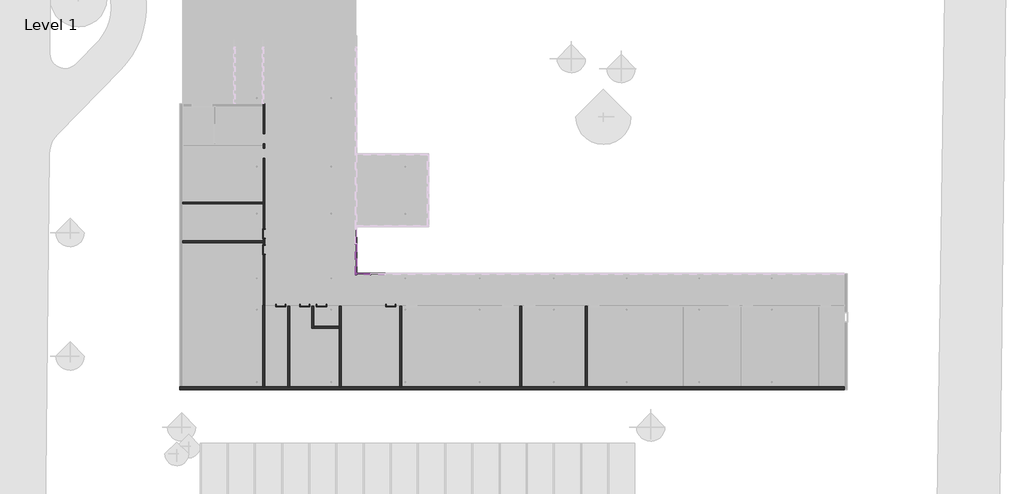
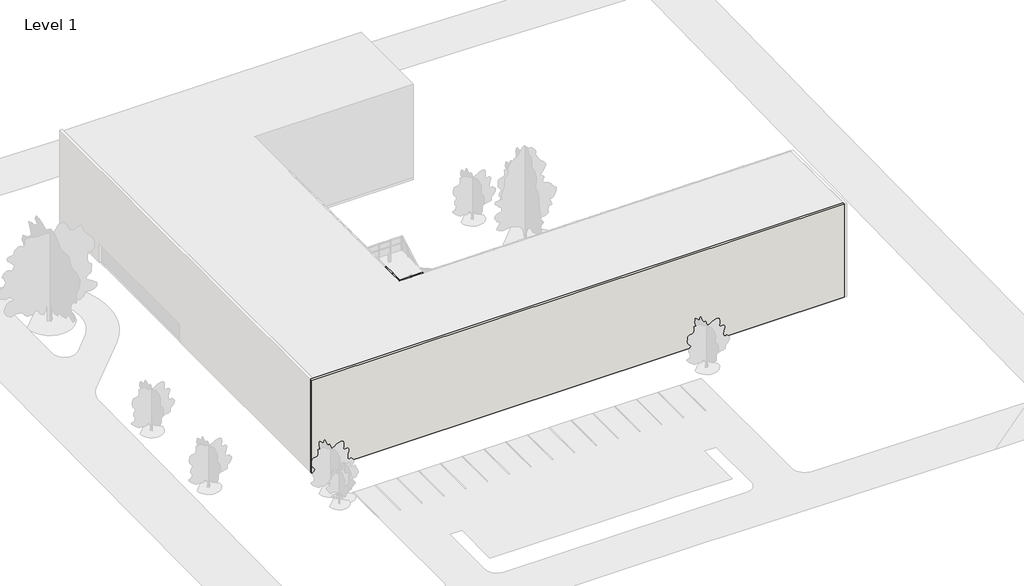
# One storey, part 1 of 18: 60 members, 29 plates, 12 walls, 6 doors.
"""IFC4 building model written with IfcOpenShell, lengths in millimetres."""

from ifc_helpers import new_model, si_unit, origin, origin_with_axes, place, context, project, spatial, polyline, outline, extrude, faceted_brep, transform, mapped, element, save
from components import door_0915mm_x_2134mm_2aa27b83, door_0915mm_x_2134mm_3fa07aa3, quad_corner_mullion_quad_mullion_1_893af7fe, quad_corner_mullion_quad_mullion_1_37ac55ff, quad_corner_mullion_quad_mullion_1_d5379b67, rectangular_mullion_50mm_x_150mm_5f185edf, rectangular_mullion_50mm_x_150mm_e13fe9f0, rectangular_mullion_50mm_x_150mm_70cae3e1, rectangular_mullion_50mm_x_150mm_5226f6e8, rectangular_mullion_50mm_x_150mm_4fd86324, rectangular_mullion_50mm_x_150mm_6edb5cd3, rectangular_mullion_50mm_x_150mm_bba830a1, rectangular_mullion_50mm_x_150mm_9219ffc6, rectangular_mullion_50mm_x_150mm_bbc1c4ea, rectangular_mullion_50mm_x_150mm_36202a7c, rectangular_mullion_50mm_x_150mm_84717ec5, system_panel_glazed_65478968, system_panel_glazed_0eb4fe1c, system_panel_glazed_ff4bdd81, system_panel_glazed_979b1f5c, system_panel_glazed_2d0f29b6, system_panel_glazed_2f061a2c, system_panel_glazed_cb2ac81e, system_panel_solid_83e87f64, system_panel_solid_59448bce, system_panel_solid_281aa57f, system_panel_solid_7338a288, system_panel_solid_71fc82a1, system_panel_solid_0b170172

model = new_model("IFC4")

# Units and contexts
model_context = context("Model", 3, world=origin())
ifc_project = project(units=[si_unit("LENGTHUNIT", "METRE", prefix="MILLI")], contexts=[model_context])

# Site, building, storey
site = spatial("IfcSite", under=ifc_project)
building = spatial("IfcBuilding", under=site)
storey = spatial("IfcBuildingStorey", under=building, Name="Level 1", Elevation=0.0)

# Doors
placement = place(None, origin())
door_0915mm_x_2134mm_shape = door_0915mm_x_2134mm_2aa27b83(model_context)
element("IfcDoor", 1, ObjectType="m-doors-hm-f1-a : 0915mm x 2134mm", at=placement, inside=storey, context=model_context, shape_type="MappedRepresentation", body=[
    mapped(door_0915mm_x_2134mm_shape, transform((-1995.8386635, -8075.8611817, 0.0), x_axis=(0.0, 1.0, 0.0), y_axis=(-1.0, 0.0, 0.0), z_axis=(0.0, 0.0, 1.0))),
])
element("IfcDoor", 2, ObjectType="m-doors-hm-f1-a : 0915mm x 2134mm", at=placement, inside=storey, context=model_context, shape_type="MappedRepresentation", body=[
    mapped(door_0915mm_x_2134mm_shape, transform((-123.8386635, -15479.7006057, 0.0), x_axis=(-1.0, 0.0, 0.0), y_axis=(0.0, -1.0, 0.0), z_axis=(0.0, 0.0, 1.0))),
])
element("IfcDoor", 3, ObjectType="m-doors-hm-f1-a : 0915mm x 2134mm", at=placement, inside=storey, context=model_context, shape_type="MappedRepresentation", body=[
    mapped(door_0915mm_x_2134mm_shape, transform((2284.1613365, -15479.7006057, 0.0), x_axis=(-1.0, 0.0, 0.0), y_axis=(0.0, -1.0, 0.0), z_axis=(0.0, 0.0, 1.0))),
])
element("IfcDoor", 4, ObjectType="m-doors-hm-f1-a : 0915mm x 2134mm", at=placement, inside=storey, context=model_context, shape_type="MappedRepresentation", body=[
    mapped(door_0915mm_x_2134mm_shape, transform((10961.1968037, -15479.7006057, 0.0), x_axis=(-1.0, 0.0, 0.0), y_axis=(0.0, -1.0, 0.0), z_axis=(0.0, 0.0, 1.0))),
])
door_0915mm_x_2134mm_2_shape = door_0915mm_x_2134mm_3fa07aa3(model_context)
element("IfcDoor", 5, ObjectType="m-doors-hm-f1-a : 0915mm x 2134mm", at=placement, inside=storey, context=model_context, shape_type="MappedRepresentation", body=[
    mapped(door_0915mm_x_2134mm_2_shape, transform((-1995.8386635, -9675.8611817, 0.0), x_axis=(0.0, -1.0, 0.0), y_axis=(1.0, 0.0, 0.0), z_axis=(0.0, 0.0, 1.0))),
])
element("IfcDoor", 6, ObjectType="m-doors-hm-f1-a : 0915mm x 2134mm", at=placement, inside=storey, context=model_context, shape_type="MappedRepresentation", body=[
    mapped(door_0915mm_x_2134mm_2_shape, transform((3984.1613365, -15479.7006057, 0.0), x_axis=(1.0, 0.0, 0.0), y_axis=(0.0, 1.0, 0.0), z_axis=(0.0, 0.0, 1.0))),
])

# Members
quad_corner_mullion_quad_mullion_1_shape = quad_corner_mullion_quad_mullion_1_893af7fe(model_context)
element("IfcMember", 7, ObjectType="Quad Corner Mullion : Quad Mullion 1", at=placement, inside=storey, context=model_context, shape_type="MappedRepresentation", body=[
    mapped(quad_corner_mullion_quad_mullion_1_shape, transform((7447.5010724, -12132.3615692, 11400.0), x_axis=(-1.0, 0.0, 0.0), y_axis=(0.0, 1.0, 0.0), z_axis=(0.0, 0.0, -1.0))),
])
quad_corner_mullion_quad_mullion_1_2_shape = quad_corner_mullion_quad_mullion_1_37ac55ff(model_context)
element("IfcMember", 8, ObjectType="Quad Corner Mullion : Quad Mullion 1", at=placement, inside=storey, context=model_context, shape_type="MappedRepresentation", body=[
    mapped(quad_corner_mullion_quad_mullion_1_2_shape, transform((7447.5010724, -12132.3615692, 0.0), x_axis=(-1.0, 0.0, 0.0), y_axis=(0.0, 1.0, 0.0), z_axis=(0.0, 0.0, -1.0))),
])
quad_corner_mullion_quad_mullion_1_3_shape = quad_corner_mullion_quad_mullion_1_d5379b67(model_context)
element("IfcMember", 9, ObjectType="Quad Corner Mullion : Quad Mullion 1", at=placement, inside=storey, context=model_context, shape_type="MappedRepresentation", body=[
    mapped(quad_corner_mullion_quad_mullion_1_3_shape, transform((7447.5010724, -12132.3615692, 2440.0), x_axis=(-1.0, 0.0, 0.0), y_axis=(0.0, 1.0, 0.0), z_axis=(0.0, 0.0, -1.0))),
])
element("IfcMember", 10, ObjectType="Quad Corner Mullion : Quad Mullion 1", at=placement, inside=storey, context=model_context, shape_type="MappedRepresentation", body=[
    mapped(quad_corner_mullion_quad_mullion_1_3_shape, transform((7447.5010724, -12132.3615692, 6240.0), x_axis=(-1.0, 0.0, 0.0), y_axis=(0.0, 1.0, 0.0), z_axis=(0.0, 0.0, -1.0))),
])
element("IfcMember", 11, ObjectType="Quad Corner Mullion : Quad Mullion 1", at=placement, inside=storey, context=model_context, shape_type="MappedRepresentation", body=[
    mapped(quad_corner_mullion_quad_mullion_1_3_shape, transform((7447.5010724, -12132.3615692, 10040.0), x_axis=(-1.0, 0.0, 0.0), y_axis=(0.0, 1.0, 0.0), z_axis=(0.0, 0.0, -1.0))),
])
element("IfcMember", 12, ObjectType="Quad Corner Mullion : Quad Mullion 1", at=placement, inside=storey, context=model_context, shape_type="MappedRepresentation", body=[
    mapped(quad_corner_mullion_quad_mullion_1_2_shape, transform((7447.5010724, -12132.3615692, 3800.0), x_axis=(-1.0, 0.0, 0.0), y_axis=(0.0, 1.0, 0.0), z_axis=(0.0, 0.0, -1.0))),
])
element("IfcMember", 13, ObjectType="Quad Corner Mullion : Quad Mullion 1", at=placement, inside=storey, context=model_context, shape_type="MappedRepresentation", body=[
    mapped(quad_corner_mullion_quad_mullion_1_2_shape, transform((7447.5010724, -12132.3615692, 7600.0), x_axis=(-1.0, 0.0, 0.0), y_axis=(0.0, 1.0, 0.0), z_axis=(0.0, 0.0, -1.0))),
])
rectangular_mullion_50mm_x_150mm_shape = rectangular_mullion_50mm_x_150mm_5f185edf(model_context)
element("IfcMember", 14, ObjectType="Rectangular Mullion : 50mm x 150mm", at=placement, inside=storey, context=model_context, shape_type="MappedRepresentation", body=[
    mapped(rectangular_mullion_50mm_x_150mm_shape, transform((8964.9742928, -12132.3615692, 12400.0), x_axis=(0.0, 0.0, 1.0), y_axis=(0.0, 1.0, 0.0), z_axis=(-1.0, 0.0, 0.0))),
])
rectangular_mullion_50mm_x_150mm_2_shape = rectangular_mullion_50mm_x_150mm_e13fe9f0(model_context)
element("IfcMember", 15, ObjectType="Rectangular Mullion : 50mm x 150mm", at=placement, inside=storey, context=model_context, shape_type="MappedRepresentation", body=[
    mapped(rectangular_mullion_50mm_x_150mm_2_shape, transform((8964.9742928, -12132.3615692, 3800.0), x_axis=(0.0, 0.0, 1.0), y_axis=(0.0, 1.0, 0.0), z_axis=(-1.0, 0.0, 0.0))),
])
element("IfcMember", 16, ObjectType="Rectangular Mullion : 50mm x 150mm", at=placement, inside=storey, context=model_context, shape_type="MappedRepresentation", body=[
    mapped(rectangular_mullion_50mm_x_150mm_2_shape, transform((8964.9742928, -12132.3615692, 7600.0), x_axis=(0.0, 0.0, 1.0), y_axis=(0.0, 1.0, 0.0), z_axis=(-1.0, 0.0, 0.0))),
])
element("IfcMember", 17, ObjectType="Rectangular Mullion : 50mm x 150mm", at=placement, inside=storey, context=model_context, shape_type="MappedRepresentation", body=[
    mapped(rectangular_mullion_50mm_x_150mm_2_shape, transform((8964.9742928, -12132.3615692, 11400.0), x_axis=(0.0, 0.0, 1.0), y_axis=(0.0, 1.0, 0.0), z_axis=(-1.0, 0.0, 0.0))),
])
element("IfcMember", 18, ObjectType="Rectangular Mullion : 50mm x 150mm", at=placement, inside=storey, context=model_context, shape_type="MappedRepresentation", body=[
    mapped(rectangular_mullion_50mm_x_150mm_2_shape, transform((8964.9742928, -12132.3615692, 2440.0), x_axis=(0.0, 0.0, 1.0), y_axis=(0.0, 1.0, 0.0), z_axis=(-1.0, 0.0, 0.0))),
])
element("IfcMember", 19, ObjectType="Rectangular Mullion : 50mm x 150mm", at=placement, inside=storey, context=model_context, shape_type="MappedRepresentation", body=[
    mapped(rectangular_mullion_50mm_x_150mm_2_shape, transform((8964.9742928, -12132.3615692, 6240.0), x_axis=(0.0, 0.0, 1.0), y_axis=(0.0, 1.0, 0.0), z_axis=(-1.0, 0.0, 0.0))),
])
element("IfcMember", 20, ObjectType="Rectangular Mullion : 50mm x 150mm", at=placement, inside=storey, context=model_context, shape_type="MappedRepresentation", body=[
    mapped(rectangular_mullion_50mm_x_150mm_2_shape, transform((8964.9742928, -12132.3615692, 10040.0), x_axis=(0.0, 0.0, 1.0), y_axis=(0.0, 1.0, 0.0), z_axis=(-1.0, 0.0, 0.0))),
])
rectangular_mullion_50mm_x_150mm_3_shape = rectangular_mullion_50mm_x_150mm_70cae3e1(model_context)
element("IfcMember", 21, ObjectType="Rectangular Mullion : 50mm x 150mm", at=placement, inside=storey, context=model_context, shape_type="MappedRepresentation", body=[
    mapped(rectangular_mullion_50mm_x_150mm_3_shape, transform((7447.5010724, -9152.8662571, 12400.0), x_axis=(0.0, 0.0, 1.0), y_axis=(1.0, 0.0, 0.0), z_axis=(0.0, 1.0, 0.0))),
])
element("IfcMember", 22, ObjectType="Rectangular Mullion : 50mm x 150mm", at=placement, inside=storey, context=model_context, shape_type="MappedRepresentation", body=[
    mapped(rectangular_mullion_50mm_x_150mm_3_shape, transform((7447.5010724, -10605.113913, 0.0), x_axis=(0.0, 0.0, -1.0), y_axis=(1.0, 0.0, 0.0), z_axis=(0.0, -1.0, 0.0))),
])
element("IfcMember", 23, ObjectType="Rectangular Mullion : 50mm x 150mm", at=placement, inside=storey, context=model_context, shape_type="MappedRepresentation", body=[
    mapped(rectangular_mullion_50mm_x_150mm_3_shape, transform((7447.5010724, -9102.8662571, 0.0), x_axis=(0.0, 0.0, -1.0), y_axis=(1.0, 0.0, 0.0), z_axis=(0.0, -1.0, 0.0))),
])
rectangular_mullion_50mm_x_150mm_4_shape = rectangular_mullion_50mm_x_150mm_5226f6e8(model_context)
element("IfcMember", 24, ObjectType="Rectangular Mullion : 50mm x 150mm", at=placement, inside=storey, context=model_context, shape_type="MappedRepresentation", body=[
    mapped(rectangular_mullion_50mm_x_150mm_4_shape, transform((7447.5010724, -9152.8662571, 3800.0), x_axis=(0.0, 0.0, 1.0), y_axis=(1.0, 0.0, 0.0), z_axis=(0.0, 1.0, 0.0))),
])
element("IfcMember", 25, ObjectType="Rectangular Mullion : 50mm x 150mm", at=placement, inside=storey, context=model_context, shape_type="MappedRepresentation", body=[
    mapped(rectangular_mullion_50mm_x_150mm_4_shape, transform((7447.5010724, -9152.8662571, 7600.0), x_axis=(0.0, 0.0, 1.0), y_axis=(1.0, 0.0, 0.0), z_axis=(0.0, 1.0, 0.0))),
])
element("IfcMember", 26, ObjectType="Rectangular Mullion : 50mm x 150mm", at=placement, inside=storey, context=model_context, shape_type="MappedRepresentation", body=[
    mapped(rectangular_mullion_50mm_x_150mm_4_shape, transform((7447.5010724, -9152.8662571, 11400.0), x_axis=(0.0, 0.0, 1.0), y_axis=(1.0, 0.0, 0.0), z_axis=(0.0, 1.0, 0.0))),
])
element("IfcMember", 27, ObjectType="Rectangular Mullion : 50mm x 150mm", at=placement, inside=storey, context=model_context, shape_type="MappedRepresentation", body=[
    mapped(rectangular_mullion_50mm_x_150mm_4_shape, transform((7447.5010724, -9152.8662571, 10040.0), x_axis=(0.0, 0.0, 1.0), y_axis=(1.0, 0.0, 0.0), z_axis=(0.0, 1.0, 0.0))),
])
element("IfcMember", 28, ObjectType="Rectangular Mullion : 50mm x 150mm", at=placement, inside=storey, context=model_context, shape_type="MappedRepresentation", body=[
    mapped(rectangular_mullion_50mm_x_150mm_4_shape, transform((7447.5010724, -9152.8662571, 6240.0), x_axis=(0.0, 0.0, 1.0), y_axis=(1.0, 0.0, 0.0), z_axis=(0.0, 1.0, 0.0))),
])
element("IfcMember", 29, ObjectType="Rectangular Mullion : 50mm x 150mm", at=placement, inside=storey, context=model_context, shape_type="MappedRepresentation", body=[
    mapped(rectangular_mullion_50mm_x_150mm_4_shape, transform((7447.5010724, -9152.8662571, 2440.0), x_axis=(0.0, 0.0, 1.0), y_axis=(1.0, 0.0, 0.0), z_axis=(0.0, 1.0, 0.0))),
])
rectangular_mullion_50mm_x_150mm_5_shape = rectangular_mullion_50mm_x_150mm_4fd86324(model_context)
element("IfcMember", 30, ObjectType="Rectangular Mullion : 50mm x 150mm", at=placement, inside=storey, context=model_context, shape_type="MappedRepresentation", body=[
    mapped(rectangular_mullion_50mm_x_150mm_5_shape, transform((7447.5010724, -10655.113913, 12400.0), x_axis=(0.0, 0.0, 1.0), y_axis=(1.0, 0.0, 0.0), z_axis=(0.0, 1.0, 0.0))),
])
element("IfcMember", 31, ObjectType="Rectangular Mullion : 50mm x 150mm", at=placement, inside=storey, context=model_context, shape_type="MappedRepresentation", body=[
    mapped(rectangular_mullion_50mm_x_150mm_5_shape, transform((7447.5010724, -12057.3615692, 0.0), x_axis=(0.0, 0.0, -1.0), y_axis=(1.0, 0.0, 0.0), z_axis=(0.0, -1.0, 0.0))),
])
rectangular_mullion_50mm_x_150mm_6_shape = rectangular_mullion_50mm_x_150mm_6edb5cd3(model_context)
element("IfcMember", 32, ObjectType="Rectangular Mullion : 50mm x 150mm", at=placement, inside=storey, context=model_context, shape_type="MappedRepresentation", body=[
    mapped(rectangular_mullion_50mm_x_150mm_6_shape, transform((7447.5010724, -10655.113913, 3800.0), x_axis=(0.0, 0.0, 1.0), y_axis=(1.0, 0.0, 0.0), z_axis=(0.0, 1.0, 0.0))),
])
element("IfcMember", 33, ObjectType="Rectangular Mullion : 50mm x 150mm", at=placement, inside=storey, context=model_context, shape_type="MappedRepresentation", body=[
    mapped(rectangular_mullion_50mm_x_150mm_6_shape, transform((7447.5010724, -10655.113913, 7600.0), x_axis=(0.0, 0.0, 1.0), y_axis=(1.0, 0.0, 0.0), z_axis=(0.0, 1.0, 0.0))),
])
element("IfcMember", 34, ObjectType="Rectangular Mullion : 50mm x 150mm", at=placement, inside=storey, context=model_context, shape_type="MappedRepresentation", body=[
    mapped(rectangular_mullion_50mm_x_150mm_6_shape, transform((7447.5010724, -10655.113913, 11400.0), x_axis=(0.0, 0.0, 1.0), y_axis=(1.0, 0.0, 0.0), z_axis=(0.0, 1.0, 0.0))),
])
element("IfcMember", 35, ObjectType="Rectangular Mullion : 50mm x 150mm", at=placement, inside=storey, context=model_context, shape_type="MappedRepresentation", body=[
    mapped(rectangular_mullion_50mm_x_150mm_6_shape, transform((7447.5010724, -10655.113913, 10040.0), x_axis=(0.0, 0.0, 1.0), y_axis=(1.0, 0.0, 0.0), z_axis=(0.0, 1.0, 0.0))),
])
element("IfcMember", 36, ObjectType="Rectangular Mullion : 50mm x 150mm", at=placement, inside=storey, context=model_context, shape_type="MappedRepresentation", body=[
    mapped(rectangular_mullion_50mm_x_150mm_6_shape, transform((7447.5010724, -10655.113913, 6240.0), x_axis=(0.0, 0.0, 1.0), y_axis=(1.0, 0.0, 0.0), z_axis=(0.0, 1.0, 0.0))),
])
element("IfcMember", 37, ObjectType="Rectangular Mullion : 50mm x 150mm", at=placement, inside=storey, context=model_context, shape_type="MappedRepresentation", body=[
    mapped(rectangular_mullion_50mm_x_150mm_6_shape, transform((7447.5010724, -10655.113913, 2440.0), x_axis=(0.0, 0.0, 1.0), y_axis=(1.0, 0.0, 0.0), z_axis=(0.0, 1.0, 0.0))),
])
rectangular_mullion_50mm_x_150mm_7_shape = rectangular_mullion_50mm_x_150mm_bba830a1(model_context)
element("IfcMember", 38, ObjectType="Rectangular Mullion : 50mm x 150mm", at=placement, inside=storey, context=model_context, shape_type="MappedRepresentation", body=[
    mapped(rectangular_mullion_50mm_x_150mm_7_shape, transform((7522.5010724, -12132.3615692, 12400.0), x_axis=(0.0, 0.0, 1.0), y_axis=(0.0, 1.0, 0.0), z_axis=(-1.0, 0.0, 0.0))),
])
element("IfcMember", 39, ObjectType="Rectangular Mullion : 50mm x 150mm", at=placement, inside=storey, context=model_context, shape_type="MappedRepresentation", body=[
    mapped(rectangular_mullion_50mm_x_150mm_7_shape, transform((8914.9742928, -12132.3615692, 0.0), x_axis=(0.0, 0.0, -1.0), y_axis=(0.0, 1.0, 0.0), z_axis=(1.0, 0.0, 0.0))),
])
rectangular_mullion_50mm_x_150mm_8_shape = rectangular_mullion_50mm_x_150mm_9219ffc6(model_context)
element("IfcMember", 40, ObjectType="Rectangular Mullion : 50mm x 150mm", at=placement, inside=storey, context=model_context, shape_type="MappedRepresentation", body=[
    mapped(rectangular_mullion_50mm_x_150mm_8_shape, transform((7522.5010724, -12132.3615692, 3800.0), x_axis=(0.0, 0.0, 1.0), y_axis=(0.0, 1.0, 0.0), z_axis=(-1.0, 0.0, 0.0))),
])
element("IfcMember", 41, ObjectType="Rectangular Mullion : 50mm x 150mm", at=placement, inside=storey, context=model_context, shape_type="MappedRepresentation", body=[
    mapped(rectangular_mullion_50mm_x_150mm_8_shape, transform((7522.5010724, -12132.3615692, 7600.0), x_axis=(0.0, 0.0, 1.0), y_axis=(0.0, 1.0, 0.0), z_axis=(-1.0, 0.0, 0.0))),
])
element("IfcMember", 42, ObjectType="Rectangular Mullion : 50mm x 150mm", at=placement, inside=storey, context=model_context, shape_type="MappedRepresentation", body=[
    mapped(rectangular_mullion_50mm_x_150mm_8_shape, transform((7522.5010724, -12132.3615692, 11400.0), x_axis=(0.0, 0.0, 1.0), y_axis=(0.0, 1.0, 0.0), z_axis=(-1.0, 0.0, 0.0))),
])
element("IfcMember", 43, ObjectType="Rectangular Mullion : 50mm x 150mm", at=placement, inside=storey, context=model_context, shape_type="MappedRepresentation", body=[
    mapped(rectangular_mullion_50mm_x_150mm_8_shape, transform((7522.5010724, -12132.3615692, 2440.0), x_axis=(0.0, 0.0, 1.0), y_axis=(0.0, 1.0, 0.0), z_axis=(-1.0, 0.0, 0.0))),
])
element("IfcMember", 44, ObjectType="Rectangular Mullion : 50mm x 150mm", at=placement, inside=storey, context=model_context, shape_type="MappedRepresentation", body=[
    mapped(rectangular_mullion_50mm_x_150mm_8_shape, transform((7522.5010724, -12132.3615692, 6240.0), x_axis=(0.0, 0.0, 1.0), y_axis=(0.0, 1.0, 0.0), z_axis=(-1.0, 0.0, 0.0))),
])
element("IfcMember", 45, ObjectType="Rectangular Mullion : 50mm x 150mm", at=placement, inside=storey, context=model_context, shape_type="MappedRepresentation", body=[
    mapped(rectangular_mullion_50mm_x_150mm_8_shape, transform((7522.5010724, -12132.3615692, 10040.0), x_axis=(0.0, 0.0, 1.0), y_axis=(0.0, 1.0, 0.0), z_axis=(-1.0, 0.0, 0.0))),
])
rectangular_mullion_50mm_x_150mm_9_shape = rectangular_mullion_50mm_x_150mm_bbc1c4ea(model_context)
element("IfcMember", 46, ObjectType="Rectangular Mullion : 50mm x 150mm", at=placement, inside=storey, context=model_context, shape_type="MappedRepresentation", body=[
    mapped(rectangular_mullion_50mm_x_150mm_9_shape, transform((8939.9742928, -12132.3615692, 11400.0), x_axis=(-1.0, 0.0, 0.0), y_axis=(0.0, 1.0, 0.0), z_axis=(0.0, 0.0, -1.0))),
])
element("IfcMember", 47, ObjectType="Rectangular Mullion : 50mm x 150mm", at=placement, inside=storey, context=model_context, shape_type="MappedRepresentation", body=[
    mapped(rectangular_mullion_50mm_x_150mm_9_shape, transform((7447.5010724, -10630.113913, 11400.0), x_axis=(0.0, 1.0, 0.0), y_axis=(1.0, 0.0, 0.0), z_axis=(0.0, 0.0, -1.0))),
])
element("IfcMember", 48, ObjectType="Rectangular Mullion : 50mm x 150mm", at=placement, inside=storey, context=model_context, shape_type="MappedRepresentation", body=[
    mapped(rectangular_mullion_50mm_x_150mm_9_shape, transform((7447.5010724, -9127.8662571, 11400.0), x_axis=(0.0, 1.0, 0.0), y_axis=(1.0, 0.0, 0.0), z_axis=(0.0, 0.0, -1.0))),
])
rectangular_mullion_50mm_x_150mm_10_shape = rectangular_mullion_50mm_x_150mm_36202a7c(model_context)
element("IfcMember", 49, ObjectType="Rectangular Mullion : 50mm x 150mm", at=placement, inside=storey, context=model_context, shape_type="MappedRepresentation", body=[
    mapped(rectangular_mullion_50mm_x_150mm_10_shape, transform((8939.9742928, -12132.3615692, 0.0), x_axis=(-1.0, 0.0, 0.0), y_axis=(0.0, 1.0, 0.0), z_axis=(0.0, 0.0, -1.0))),
])
element("IfcMember", 50, ObjectType="Rectangular Mullion : 50mm x 150mm", at=placement, inside=storey, context=model_context, shape_type="MappedRepresentation", body=[
    mapped(rectangular_mullion_50mm_x_150mm_10_shape, transform((7447.5010724, -10630.113913, 0.0), x_axis=(0.0, 1.0, 0.0), y_axis=(1.0, 0.0, 0.0), z_axis=(0.0, 0.0, -1.0))),
])
element("IfcMember", 51, ObjectType="Rectangular Mullion : 50mm x 150mm", at=placement, inside=storey, context=model_context, shape_type="MappedRepresentation", body=[
    mapped(rectangular_mullion_50mm_x_150mm_10_shape, transform((7447.5010724, -9127.8662571, 0.0), x_axis=(0.0, 1.0, 0.0), y_axis=(1.0, 0.0, 0.0), z_axis=(0.0, 0.0, -1.0))),
])
rectangular_mullion_50mm_x_150mm_11_shape = rectangular_mullion_50mm_x_150mm_84717ec5(model_context)
element("IfcMember", 52, ObjectType="Rectangular Mullion : 50mm x 150mm", at=placement, inside=storey, context=model_context, shape_type="MappedRepresentation", body=[
    mapped(rectangular_mullion_50mm_x_150mm_11_shape, transform((8939.9742928, -12132.3615692, 2440.0), x_axis=(-1.0, 0.0, 0.0), y_axis=(0.0, 1.0, 0.0), z_axis=(0.0, 0.0, -1.0))),
])
element("IfcMember", 53, ObjectType="Rectangular Mullion : 50mm x 150mm", at=placement, inside=storey, context=model_context, shape_type="MappedRepresentation", body=[
    mapped(rectangular_mullion_50mm_x_150mm_11_shape, transform((8939.9742928, -12132.3615692, 6240.0), x_axis=(-1.0, 0.0, 0.0), y_axis=(0.0, 1.0, 0.0), z_axis=(0.0, 0.0, -1.0))),
])
element("IfcMember", 54, ObjectType="Rectangular Mullion : 50mm x 150mm", at=placement, inside=storey, context=model_context, shape_type="MappedRepresentation", body=[
    mapped(rectangular_mullion_50mm_x_150mm_11_shape, transform((8939.9742928, -12132.3615692, 10040.0), x_axis=(-1.0, 0.0, 0.0), y_axis=(0.0, 1.0, 0.0), z_axis=(0.0, 0.0, -1.0))),
])
element("IfcMember", 55, ObjectType="Rectangular Mullion : 50mm x 150mm", at=placement, inside=storey, context=model_context, shape_type="MappedRepresentation", body=[
    mapped(rectangular_mullion_50mm_x_150mm_11_shape, transform((7447.5010724, -10630.113913, 10040.0), x_axis=(0.0, 1.0, 0.0), y_axis=(1.0, 0.0, 0.0), z_axis=(0.0, 0.0, -1.0))),
])
element("IfcMember", 56, ObjectType="Rectangular Mullion : 50mm x 150mm", at=placement, inside=storey, context=model_context, shape_type="MappedRepresentation", body=[
    mapped(rectangular_mullion_50mm_x_150mm_11_shape, transform((7447.5010724, -9127.8662571, 10040.0), x_axis=(0.0, 1.0, 0.0), y_axis=(1.0, 0.0, 0.0), z_axis=(0.0, 0.0, -1.0))),
])
element("IfcMember", 57, ObjectType="Rectangular Mullion : 50mm x 150mm", at=placement, inside=storey, context=model_context, shape_type="MappedRepresentation", body=[
    mapped(rectangular_mullion_50mm_x_150mm_11_shape, transform((7447.5010724, -10630.113913, 6240.0), x_axis=(0.0, 1.0, 0.0), y_axis=(1.0, 0.0, 0.0), z_axis=(0.0, 0.0, -1.0))),
])
element("IfcMember", 58, ObjectType="Rectangular Mullion : 50mm x 150mm", at=placement, inside=storey, context=model_context, shape_type="MappedRepresentation", body=[
    mapped(rectangular_mullion_50mm_x_150mm_11_shape, transform((7447.5010724, -9127.8662571, 6240.0), x_axis=(0.0, 1.0, 0.0), y_axis=(1.0, 0.0, 0.0), z_axis=(0.0, 0.0, -1.0))),
])
element("IfcMember", 59, ObjectType="Rectangular Mullion : 50mm x 150mm", at=placement, inside=storey, context=model_context, shape_type="MappedRepresentation", body=[
    mapped(rectangular_mullion_50mm_x_150mm_11_shape, transform((7447.5010724, -10630.113913, 2440.0), x_axis=(0.0, 1.0, 0.0), y_axis=(1.0, 0.0, 0.0), z_axis=(0.0, 0.0, -1.0))),
])
element("IfcMember", 60, ObjectType="Rectangular Mullion : 50mm x 150mm", at=placement, inside=storey, context=model_context, shape_type="MappedRepresentation", body=[
    mapped(rectangular_mullion_50mm_x_150mm_11_shape, transform((7447.5010724, -9127.8662571, 2440.0), x_axis=(0.0, 1.0, 0.0), y_axis=(1.0, 0.0, 0.0), z_axis=(0.0, 0.0, -1.0))),
])
element("IfcMember", 61, ObjectType="Rectangular Mullion : 50mm x 150mm", at=placement, inside=storey, context=model_context, shape_type="MappedRepresentation", body=[
    mapped(rectangular_mullion_50mm_x_150mm_10_shape, transform((8939.9742928, -12132.3615692, 3800.0), x_axis=(-1.0, 0.0, 0.0), y_axis=(0.0, 1.0, 0.0), z_axis=(0.0, 0.0, -1.0))),
])
element("IfcMember", 62, ObjectType="Rectangular Mullion : 50mm x 150mm", at=placement, inside=storey, context=model_context, shape_type="MappedRepresentation", body=[
    mapped(rectangular_mullion_50mm_x_150mm_10_shape, transform((8939.9742928, -12132.3615692, 7600.0), x_axis=(-1.0, 0.0, 0.0), y_axis=(0.0, 1.0, 0.0), z_axis=(0.0, 0.0, -1.0))),
])
element("IfcMember", 63, ObjectType="Rectangular Mullion : 50mm x 150mm", at=placement, inside=storey, context=model_context, shape_type="MappedRepresentation", body=[
    mapped(rectangular_mullion_50mm_x_150mm_10_shape, transform((7447.5010724, -10630.113913, 3800.0), x_axis=(0.0, 1.0, 0.0), y_axis=(1.0, 0.0, 0.0), z_axis=(0.0, 0.0, -1.0))),
])
element("IfcMember", 64, ObjectType="Rectangular Mullion : 50mm x 150mm", at=placement, inside=storey, context=model_context, shape_type="MappedRepresentation", body=[
    mapped(rectangular_mullion_50mm_x_150mm_10_shape, transform((7447.5010724, -9127.8662571, 3800.0), x_axis=(0.0, 1.0, 0.0), y_axis=(1.0, 0.0, 0.0), z_axis=(0.0, 0.0, -1.0))),
])
element("IfcMember", 65, ObjectType="Rectangular Mullion : 50mm x 150mm", at=placement, inside=storey, context=model_context, shape_type="MappedRepresentation", body=[
    mapped(rectangular_mullion_50mm_x_150mm_10_shape, transform((7447.5010724, -10630.113913, 7600.0), x_axis=(0.0, 1.0, 0.0), y_axis=(1.0, 0.0, 0.0), z_axis=(0.0, 0.0, -1.0))),
])
element("IfcMember", 66, ObjectType="Rectangular Mullion : 50mm x 150mm", at=placement, inside=storey, context=model_context, shape_type="MappedRepresentation", body=[
    mapped(rectangular_mullion_50mm_x_150mm_10_shape, transform((7447.5010724, -9127.8662571, 7600.0), x_axis=(0.0, 1.0, 0.0), y_axis=(1.0, 0.0, 0.0), z_axis=(0.0, 0.0, -1.0))),
])

# Plates
system_panel_glazed_shape = system_panel_glazed_65478968(model_context)
element("IfcPlate", 67, ObjectType="System Panel : Glazed", at=placement, inside=storey, context=model_context, shape_type="MappedRepresentation", body=[
    mapped(system_panel_glazed_shape, transform((9686.2109029, -12132.3615692, 50.0), x_axis=(-1.0, 0.0, 0.0), y_axis=(0.0, -1.0, 0.0), z_axis=(0.0, 0.0, 1.0))),
])
system_panel_glazed_2_shape = system_panel_glazed_0eb4fe1c(model_context)
element("IfcPlate", 68, ObjectType="System Panel : Glazed", at=placement, inside=storey, context=model_context, shape_type="MappedRepresentation", body=[
    mapped(system_panel_glazed_2_shape, transform((8218.7376826, -12132.3615692, 50.0), x_axis=(-1.0, 0.0, 0.0), y_axis=(0.0, -1.0, 0.0), z_axis=(0.0, 0.0, 1.0))),
])
system_panel_glazed_3_shape = system_panel_glazed_ff4bdd81(model_context)
element("IfcPlate", 69, ObjectType="System Panel : Glazed", at=placement, inside=storey, context=model_context, shape_type="MappedRepresentation", body=[
    mapped(system_panel_glazed_3_shape, transform((8218.7376826, -12132.3615692, 3825.0), x_axis=(-1.0, 0.0, 0.0), y_axis=(0.0, -1.0, 0.0), z_axis=(0.0, 0.0, 1.0))),
])
element("IfcPlate", 70, ObjectType="System Panel : Glazed", at=placement, inside=storey, context=model_context, shape_type="MappedRepresentation", body=[
    mapped(system_panel_glazed_3_shape, transform((8218.7376826, -12132.3615692, 7625.0), x_axis=(-1.0, 0.0, 0.0), y_axis=(0.0, -1.0, 0.0), z_axis=(0.0, 0.0, 1.0))),
])
system_panel_glazed_4_shape = system_panel_glazed_979b1f5c(model_context)
element("IfcPlate", 71, ObjectType="System Panel : Glazed", at=placement, inside=storey, context=model_context, shape_type="MappedRepresentation", body=[
    mapped(system_panel_glazed_4_shape, transform((7447.5010724, -9878.990085, 3825.0), x_axis=(0.0, 1.0, 0.0), y_axis=(-1.0, 0.0, 0.0), z_axis=(0.0, 0.0, 1.0))),
])
element("IfcPlate", 72, ObjectType="System Panel : Glazed", at=placement, inside=storey, context=model_context, shape_type="MappedRepresentation", body=[
    mapped(system_panel_glazed_4_shape, transform((7447.5010724, -8376.7424291, 3825.0), x_axis=(0.0, 1.0, 0.0), y_axis=(-1.0, 0.0, 0.0), z_axis=(0.0, 0.0, 1.0))),
])
element("IfcPlate", 73, ObjectType="System Panel : Glazed", at=placement, inside=storey, context=model_context, shape_type="MappedRepresentation", body=[
    mapped(system_panel_glazed_4_shape, transform((7447.5010724, -9878.990085, 7625.0), x_axis=(0.0, 1.0, 0.0), y_axis=(-1.0, 0.0, 0.0), z_axis=(0.0, 0.0, 1.0))),
])
element("IfcPlate", 74, ObjectType="System Panel : Glazed", at=placement, inside=storey, context=model_context, shape_type="MappedRepresentation", body=[
    mapped(system_panel_glazed_4_shape, transform((7447.5010724, -8376.7424291, 7625.0), x_axis=(0.0, 1.0, 0.0), y_axis=(-1.0, 0.0, 0.0), z_axis=(0.0, 0.0, 1.0))),
])
system_panel_glazed_5_shape = system_panel_glazed_2d0f29b6(model_context)
element("IfcPlate", 75, ObjectType="System Panel : Glazed", at=placement, inside=storey, context=model_context, shape_type="MappedRepresentation", body=[
    mapped(system_panel_glazed_5_shape, transform((7447.5010724, -11356.2377411, 3825.0), x_axis=(0.0, 1.0, 0.0), y_axis=(-1.0, 0.0, 0.0), z_axis=(0.0, 0.0, 1.0))),
])
element("IfcPlate", 76, ObjectType="System Panel : Glazed", at=placement, inside=storey, context=model_context, shape_type="MappedRepresentation", body=[
    mapped(system_panel_glazed_5_shape, transform((7447.5010724, -11356.2377411, 7625.0), x_axis=(0.0, 1.0, 0.0), y_axis=(-1.0, 0.0, 0.0), z_axis=(0.0, 0.0, 1.0))),
])
system_panel_glazed_6_shape = system_panel_glazed_2f061a2c(model_context)
element("IfcPlate", 77, ObjectType="System Panel : Glazed", at=placement, inside=storey, context=model_context, shape_type="MappedRepresentation", body=[
    mapped(system_panel_glazed_6_shape, transform((7447.5010724, -9878.990085, 50.0), x_axis=(0.0, 1.0, 0.0), y_axis=(-1.0, 0.0, 0.0), z_axis=(0.0, 0.0, 1.0))),
])
element("IfcPlate", 78, ObjectType="System Panel : Glazed", at=placement, inside=storey, context=model_context, shape_type="MappedRepresentation", body=[
    mapped(system_panel_glazed_6_shape, transform((7447.5010724, -8376.7424291, 50.0), x_axis=(0.0, 1.0, 0.0), y_axis=(-1.0, 0.0, 0.0), z_axis=(0.0, 0.0, 1.0))),
])
system_panel_glazed_7_shape = system_panel_glazed_cb2ac81e(model_context)
element("IfcPlate", 79, ObjectType="System Panel : Glazed", at=placement, inside=storey, context=model_context, shape_type="MappedRepresentation", body=[
    mapped(system_panel_glazed_7_shape, transform((7447.5010724, -11356.2377411, 50.0), x_axis=(0.0, 1.0, 0.0), y_axis=(-1.0, 0.0, 0.0), z_axis=(0.0, 0.0, 1.0))),
])
system_panel_solid_shape = system_panel_solid_83e87f64(model_context)
element("IfcPlate", 80, ObjectType="System Panel : Solid", at=placement, inside=storey, context=model_context, shape_type="MappedRepresentation", body=[
    mapped(system_panel_solid_shape, transform((8218.7376826, -12132.3615692, 11425.0), x_axis=(-1.0, 0.0, 0.0), y_axis=(0.0, -1.0, 0.0), z_axis=(0.0, 0.0, 1.0))),
])
system_panel_solid_2_shape = system_panel_solid_59448bce(model_context)
element("IfcPlate", 81, ObjectType="System Panel : Solid", at=placement, inside=storey, context=model_context, shape_type="MappedRepresentation", body=[
    mapped(system_panel_solid_2_shape, transform((8218.7376826, -12132.3615692, 2465.0), x_axis=(-1.0, 0.0, 0.0), y_axis=(0.0, -1.0, 0.0), z_axis=(0.0, 0.0, 1.0))),
])
element("IfcPlate", 82, ObjectType="System Panel : Solid", at=placement, inside=storey, context=model_context, shape_type="MappedRepresentation", body=[
    mapped(system_panel_solid_2_shape, transform((8218.7376826, -12132.3615692, 6265.0), x_axis=(-1.0, 0.0, 0.0), y_axis=(0.0, -1.0, 0.0), z_axis=(0.0, 0.0, 1.0))),
])
element("IfcPlate", 83, ObjectType="System Panel : Solid", at=placement, inside=storey, context=model_context, shape_type="MappedRepresentation", body=[
    mapped(system_panel_solid_2_shape, transform((8218.7376826, -12132.3615692, 10065.0), x_axis=(-1.0, 0.0, 0.0), y_axis=(0.0, -1.0, 0.0), z_axis=(0.0, 0.0, 1.0))),
])
system_panel_solid_3_shape = system_panel_solid_281aa57f(model_context)
element("IfcPlate", 84, ObjectType="System Panel : Solid", at=placement, inside=storey, context=model_context, shape_type="MappedRepresentation", body=[
    mapped(system_panel_solid_3_shape, transform((7447.5010724, -11356.2377411, 11425.0), x_axis=(0.0, 1.0, 0.0), y_axis=(-1.0, 0.0, 0.0), z_axis=(0.0, 0.0, 1.0))),
])
system_panel_solid_4_shape = system_panel_solid_7338a288(model_context)
element("IfcPlate", 85, ObjectType="System Panel : Solid", at=placement, inside=storey, context=model_context, shape_type="MappedRepresentation", body=[
    mapped(system_panel_solid_4_shape, transform((7447.5010724, -9878.990085, 11425.0), x_axis=(0.0, 1.0, 0.0), y_axis=(-1.0, 0.0, 0.0), z_axis=(0.0, 0.0, 1.0))),
])
element("IfcPlate", 86, ObjectType="System Panel : Solid", at=placement, inside=storey, context=model_context, shape_type="MappedRepresentation", body=[
    mapped(system_panel_solid_4_shape, transform((7447.5010724, -8376.7424291, 11425.0), x_axis=(0.0, 1.0, 0.0), y_axis=(-1.0, 0.0, 0.0), z_axis=(0.0, 0.0, 1.0))),
])
system_panel_solid_5_shape = system_panel_solid_71fc82a1(model_context)
element("IfcPlate", 87, ObjectType="System Panel : Solid", at=placement, inside=storey, context=model_context, shape_type="MappedRepresentation", body=[
    mapped(system_panel_solid_5_shape, transform((7447.5010724, -11356.2377411, 10065.0), x_axis=(0.0, 1.0, 0.0), y_axis=(-1.0, 0.0, 0.0), z_axis=(0.0, 0.0, 1.0))),
])
element("IfcPlate", 88, ObjectType="System Panel : Solid", at=placement, inside=storey, context=model_context, shape_type="MappedRepresentation", body=[
    mapped(system_panel_solid_5_shape, transform((7447.5010724, -11356.2377411, 6265.0), x_axis=(0.0, 1.0, 0.0), y_axis=(-1.0, 0.0, 0.0), z_axis=(0.0, 0.0, 1.0))),
])
element("IfcPlate", 89, ObjectType="System Panel : Solid", at=placement, inside=storey, context=model_context, shape_type="MappedRepresentation", body=[
    mapped(system_panel_solid_5_shape, transform((7447.5010724, -11356.2377411, 2465.0), x_axis=(0.0, 1.0, 0.0), y_axis=(-1.0, 0.0, 0.0), z_axis=(0.0, 0.0, 1.0))),
])
system_panel_solid_6_shape = system_panel_solid_0b170172(model_context)
element("IfcPlate", 90, ObjectType="System Panel : Solid", at=placement, inside=storey, context=model_context, shape_type="MappedRepresentation", body=[
    mapped(system_panel_solid_6_shape, transform((7447.5010724, -9878.990085, 10065.0), x_axis=(0.0, 1.0, 0.0), y_axis=(-1.0, 0.0, 0.0), z_axis=(0.0, 0.0, 1.0))),
])
element("IfcPlate", 91, ObjectType="System Panel : Solid", at=placement, inside=storey, context=model_context, shape_type="MappedRepresentation", body=[
    mapped(system_panel_solid_6_shape, transform((7447.5010724, -8376.7424291, 10065.0), x_axis=(0.0, 1.0, 0.0), y_axis=(-1.0, 0.0, 0.0), z_axis=(0.0, 0.0, 1.0))),
])
element("IfcPlate", 92, ObjectType="System Panel : Solid", at=placement, inside=storey, context=model_context, shape_type="MappedRepresentation", body=[
    mapped(system_panel_solid_6_shape, transform((7447.5010724, -9878.990085, 6265.0), x_axis=(0.0, 1.0, 0.0), y_axis=(-1.0, 0.0, 0.0), z_axis=(0.0, 0.0, 1.0))),
])
element("IfcPlate", 93, ObjectType="System Panel : Solid", at=placement, inside=storey, context=model_context, shape_type="MappedRepresentation", body=[
    mapped(system_panel_solid_6_shape, transform((7447.5010724, -8376.7424291, 6265.0), x_axis=(0.0, 1.0, 0.0), y_axis=(-1.0, 0.0, 0.0), z_axis=(0.0, 0.0, 1.0))),
])
element("IfcPlate", 94, ObjectType="System Panel : Solid", at=placement, inside=storey, context=model_context, shape_type="MappedRepresentation", body=[
    mapped(system_panel_solid_6_shape, transform((7447.5010724, -9878.990085, 2465.0), x_axis=(0.0, 1.0, 0.0), y_axis=(-1.0, 0.0, 0.0), z_axis=(0.0, 0.0, 1.0))),
])
element("IfcPlate", 95, ObjectType="System Panel : Solid", at=placement, inside=storey, context=model_context, shape_type="MappedRepresentation", body=[
    mapped(system_panel_solid_6_shape, transform((7447.5010724, -8376.7424291, 2465.0), x_axis=(0.0, 1.0, 0.0), y_axis=(-1.0, 0.0, 0.0), z_axis=(0.0, 0.0, 1.0))),
])

# Walls
element("IfcWall", 96, ObjectType="P6 184mm - 1HR - ULC #W453", at=placement, inside=storey, context=model_context, shape_type="Brep", body=[
    faceted_brep([(-1912.8386635, -15304.7006057, 0.0), (-1912.8386635, -15304.7006057, 3550.0), (-1912.8386635, -8967.8611817, 3550.0), (-1912.8386635, -8783.8611817, 3550.0), (-1912.8386635, -5067.8611817, 3550.0), (-1912.8386635, -4883.8611817, 3550.0), (-1912.8386635, 726.5392059, 3550.0), (-1912.8386635, 910.5392059, 3550.0), (-1912.8386635, 4720.5799804, 3550.0), (-1912.8386635, 5022.5799804, 3550.0), (-1912.8386635, 5022.5799804, 0.0), (-1912.8386635, 4720.5799804, 0.0), (-1912.8386635, 2026.0392059, 0.0), (-1912.8386635, 2026.0392059, 2184.0), (-1912.8386635, 1011.0392059, 2184.0), (-1912.8386635, 1011.0392059, 0.0), (-1912.8386635, 910.5392059, 0.0), (-1912.8386635, 726.5392059, 0.0), (-1912.8386635, 526.0392059, 0.0), (-1912.8386635, 526.0392059, 2184.0), (-1912.8386635, -488.9607941, 2184.0), (-1912.8386635, -488.9607941, 0.0), (-1912.8386635, -4883.8611817, 0.0), (-1912.8386635, -5067.8611817, 0.0), (-1912.8386635, -7568.3611817, 0.0), (-1912.8386635, -7568.3611817, 2184.0), (-1912.8386635, -8583.3611817, 2184.0), (-1912.8386635, -8583.3611817, 0.0), (-1912.8386635, -8783.8611817, 0.0), (-1912.8386635, -8967.8611817, 0.0), (-1912.8386635, -9168.3611817, 0.0), (-1912.8386635, -9168.3611817, 2184.0), (-1912.8386635, -10183.3611817, 2184.0), (-1912.8386635, -10183.3611817, 0.0), (-1728.8386635, -15304.7006057, 3550.0), (-1728.8386635, -15304.7006057, 0.0), (-1728.8386635, -15212.7006057, 0.0), (-1728.8386635, -10183.3611817, 0.0), (-1728.8386635, -10183.3611817, 2184.0), (-1728.8386635, -9168.3611817, 2184.0), (-1728.8386635, -9168.3611817, 0.0), (-1728.8386635, -8583.3611817, 0.0), (-1728.8386635, -8583.3611817, 2184.0), (-1728.8386635, -7568.3611817, 2184.0), (-1728.8386635, -7568.3611817, 0.0), (-1728.8386635, -488.9607941, 0.0), (-1728.8386635, -488.9607941, 2184.0), (-1728.8386635, 526.0392059, 2184.0), (-1728.8386635, 526.0392059, 0.0), (-1728.8386635, 1011.0392059, 0.0), (-1728.8386635, 1011.0392059, 2184.0), (-1728.8386635, 2026.0392059, 2184.0), (-1728.8386635, 2026.0392059, 0.0), (-1728.8386635, 5022.5799804, 0.0), (-1728.8386635, 5022.5799804, 3550.0), (-1728.8386635, -15212.7006057, 3550.0)], [[[0, 1, 2, 3, 4, 5, 6, 7, 8, 9, 10, 11, 12, 13, 14, 15, 16, 17, 18, 19, 20, 21, 22, 23, 24, 25, 26, 27, 28, 29, 30, 31, 32, 33]], [[34, 35, 36, 37, 38, 39, 40, 41, 42, 43, 44, 45, 46, 47, 48, 49, 50, 51, 52, 53, 54, 55]], [[10, 53, 52, 12, 11]], [[35, 0, 33, 37, 36]], [[15, 49, 48, 18, 17, 16]], [[21, 45, 44, 24, 23, 22]], [[27, 41, 40, 30, 29, 28]], [[1, 0, 35, 34]], [[9, 8, 7, 6, 5, 4, 3, 2, 1, 34, 55, 54]], [[10, 9, 54, 53]], [[51, 13, 12, 52]], [[13, 51, 50, 14]], [[14, 50, 49, 15]], [[21, 20, 46, 45]], [[20, 19, 47, 46]], [[19, 18, 48, 47]], [[43, 25, 24, 44]], [[25, 43, 42, 26]], [[26, 42, 41, 27]], [[32, 38, 37, 33]], [[38, 32, 31, 39]], [[39, 31, 30, 40]]]),
])
element("IfcWall", 97, ObjectType="P6 184mm - 1HR - ULC #W453", at=placement, inside=storey, context=model_context, shape_type="SweptSolid", body=[
    extrude(outline(polyline([(-1912.8386635, -5067.8611817), (-10026.8386635, -5067.8611817), (-10026.8386635, -4883.8611817), (-1912.8386635, -4883.8611817), (-1912.8386635, -5067.8611817)])), origin_with_axes(), (0.0, 0.0, 1.0), 3550.0),
])
element("IfcWall", 98, ObjectType="P6 184mm - 1HR - ULC #W453", at=placement, inside=storey, context=model_context, shape_type="SweptSolid", body=[
    extrude(outline(polyline([(-1912.8386635, -8967.8611817), (-10026.8386635, -8967.8611817), (-10026.8386635, -8783.8611817), (-1912.8386635, -8783.8611817), (-1912.8386635, -8967.8611817)])), origin_with_axes(), (0.0, 0.0, 1.0), 3550.0),
])
element("IfcWall", 99, ObjectType="P6 184mm - 1HR - ULC #W453", at=placement, inside=storey, context=model_context, shape_type="Brep", body=[
    faceted_brep([(5769.1968037, -15396.7006057, 0.0), (5769.1968037, -17412.7006057, 0.0), (5769.1968037, -17596.7006057, 0.0), (5769.1968037, -23510.7006057, 0.0), (5769.1968037, -23510.7006057, 3550.0), (5769.1968037, -17596.7006057, 3550.0), (5769.1968037, -17412.7006057, 3550.0), (5769.1968037, -15396.7006057, 3550.0), (5953.1968037, -15396.7006057, 0.0), (5953.1968037, -15396.7006057, 3550.0), (5953.1968037, -23510.7006057, 3550.0), (5953.1968037, -23510.7006057, 0.0)], [[[0, 1, 2, 3, 4, 5, 6, 7]], [[8, 9, 10, 11]], [[3, 2, 1, 0, 8, 11]], [[7, 6, 5, 4, 10, 9]], [[0, 7, 9, 8]], [[4, 3, 11, 10]]]),
])
element("IfcWall", 100, ObjectType="P6 184mm - 1HR - ULC #W453", at=placement, inside=storey, context=model_context, shape_type="Brep", body=[
    faceted_brep([(2992.1613365, -15396.7006057, 0.0), (2992.1613365, -17596.7006057, 0.0), (2992.1613365, -17596.7006057, 3550.0), (2992.1613365, -15396.7006057, 3550.0), (3176.1613365, -15396.7006057, 0.0), (3176.1613365, -15396.7006057, 3550.0), (3176.1613365, -17412.7006057, 3550.0), (3176.1613365, -17596.7006057, 3550.0), (3176.1613365, -17596.7006057, 0.0), (3176.1613365, -17412.7006057, 0.0)], [[[0, 1, 2, 3]], [[4, 5, 6, 7, 8, 9]], [[1, 0, 4, 9, 8]], [[3, 2, 7, 6, 5]], [[0, 3, 5, 4]], [[2, 1, 8, 7]]]),
])
element("IfcWall", 101, ObjectType="P6 184mm - 1HR - ULC #W453", at=placement, inside=storey, context=model_context, shape_type="SweptSolid", body=[
    extrude(outline(polyline([(3176.1613365, -17412.7006057), (5769.1968037, -17412.7006057), (5769.1968037, -17596.7006057), (3176.1613365, -17596.7006057), (3176.1613365, -17412.7006057)])), origin_with_axes(), (0.0, 0.0, 1.0), 3550.0),
])
element("IfcWall", 102, ObjectType="Exterior - EIFS on Mtl Stud", at=placement, inside=storey, context=model_context, shape_type="Brep", body=[
    faceted_brep([(-10328.8386635, -23812.7006057, 0.0), (56699.1173382, -23812.7006057, 0.0), (56699.1173382, -23812.7006057, 12400.0), (-10328.8386635, -23812.7006057, 12400.0), (-10328.8386635, -23510.7006057, 0.0), (-10328.8386635, -23510.7006057, 12400.0), (-10026.8386635, -23510.7006057, 12400.0), (56699.1173382, -23510.7006057, 12400.0), (56699.1173382, -23510.7006057, 0.0), (54199.1173382, -23510.7006057, 0.0), (54009.1173382, -23510.7006057, 0.0), (46353.1968037, -23510.7006057, 0.0), (46169.1968037, -23510.7006057, 0.0), (40553.1968037, -23510.7006057, 0.0), (40369.1968037, -23510.7006057, 0.0), (30753.1968037, -23510.7006057, 0.0), (30569.1968037, -23510.7006057, 0.0), (24153.1968037, -23510.7006057, 0.0), (23969.1968037, -23510.7006057, 0.0), (12053.1968037, -23510.7006057, 0.0), (11869.1968037, -23510.7006057, 0.0), (5953.1968037, -23510.7006057, 0.0), (5769.1968037, -23510.7006057, 0.0), (771.1613365, -23510.7006057, 0.0), (581.1613365, -23510.7006057, 0.0), (-1728.8386635, -23510.7006057, 0.0), (-1918.8386635, -23510.7006057, 0.0), (-10026.8386635, -23510.7006057, 0.0)], [[[0, 1, 2, 3]], [[4, 5, 6, 7, 8, 9, 10, 11, 12, 13, 14, 15, 16, 17, 18, 19, 20, 21, 22, 23, 24, 25, 26, 27]], [[1, 0, 4, 27, 26, 25, 24, 23, 22, 21, 20, 19, 18, 17, 16, 15, 14, 13, 12, 11, 10, 9, 8]], [[3, 2, 7, 6, 5]], [[2, 1, 8, 7]], [[0, 3, 5, 4]]]),
])
element("IfcWall", 103, ObjectType="P28 190mm CMU 2 HR", at=placement, inside=storey, context=model_context, shape_type="SweptSolid", body=[
    extrude(outline(polyline([(581.1613365, -23510.7006057), (581.1613365, -15396.7006057), (771.1613365, -15396.7006057), (771.1613365, -23510.7006057), (581.1613365, -23510.7006057)])), origin_with_axes(), (0.0, 0.0, 1.0), 3550.0),
])
element("IfcWall", 104, ObjectType="P28 190mm CMU 2 HR", at=placement, inside=storey, context=model_context, shape_type="Brep", body=[
    faceted_brep([(-1918.8386635, -15304.7006057, 0.0), (-1918.8386635, -23510.7006057, 0.0), (-1918.8386635, -23510.7006057, 3550.0), (-1918.8386635, -15304.7006057, 3550.0), (-1728.8386635, -15304.7006057, 0.0), (-1728.8386635, -15304.7006057, 3550.0), (-1728.8386635, -15396.7006057, 3550.0), (-1728.8386635, -23510.7006057, 3550.0), (-1728.8386635, -23510.7006057, 0.0), (-1728.8386635, -15396.7006057, 0.0), (-1912.8386635, -15304.7006057, 0.0), (-1912.8386635, -15304.7006057, 3550.0)], [[[0, 1, 2, 3]], [[4, 5, 6, 7, 8, 9]], [[1, 0, 10, 4, 9, 8]], [[3, 2, 7, 6, 5, 11]], [[0, 3, 11, 5, 4, 10]], [[2, 1, 8, 7]]]),
])
element("IfcWall", 105, ObjectType="P4 184mm", at=placement, inside=storey, context=model_context, shape_type="SweptSolid", body=[
    extrude(outline(polyline([(11869.1968037, -23510.7006057), (11869.1968037, -15396.7006057), (12053.1968037, -15396.7006057), (12053.1968037, -23510.7006057), (11869.1968037, -23510.7006057)])), origin_with_axes(), (0.0, 0.0, 1.0), 3550.0),
])
element("IfcWall", 106, ObjectType="P4 184mm", at=placement, inside=storey, context=model_context, shape_type="SweptSolid", body=[
    extrude(outline(polyline([(23969.1968037, -23510.7006057), (23969.1968037, -15396.7006057), (24153.1968037, -15396.7006057), (24153.1968037, -23510.7006057), (23969.1968037, -23510.7006057)])), origin_with_axes(), (0.0, 0.0, 1.0), 3550.0),
])
element("IfcWall", 107, ObjectType="P4 184mm", at=placement, inside=storey, context=model_context, shape_type="SweptSolid", body=[
    extrude(outline(polyline([(30569.1968037, -23510.7006057), (30569.1968037, -15396.7006057), (30753.1968037, -15396.7006057), (30753.1968037, -23510.7006057), (30569.1968037, -23510.7006057)])), origin_with_axes(), (0.0, 0.0, 1.0), 3550.0),
])

save(model, "model.ifc")
